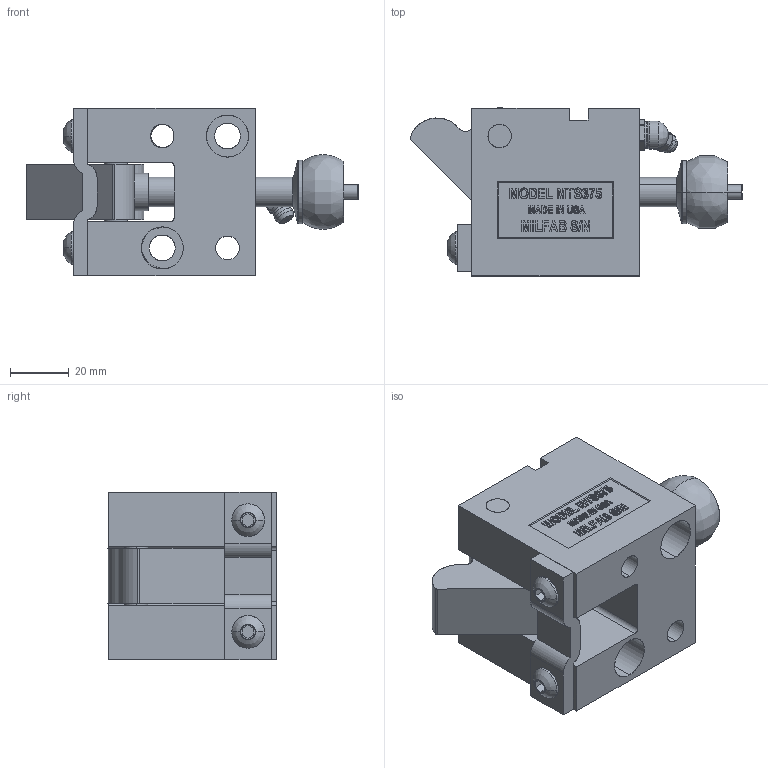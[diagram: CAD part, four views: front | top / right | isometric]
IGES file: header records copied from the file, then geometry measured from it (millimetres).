
Start section: SolidWorks IGES file using analytic representation for surfaces
Global section: file name: Y:\METRIC TOP MOUNT CAM UNITS\MTS375\CLOSED\MTS375-C.IGS; native system: SolidWorks 2006 by SolidWorks Corporation; preprocessor: SolidWorks 2006 by SolidWorks Corporation; author: Jim; date: 090116.141726; units: inch
Bounding box: 113.08 x 57.27 x 57.15 mm (x, y, z)
Surface area: 46956.4 mm2 (no closed solid volume)
Topology: 0 solids, 0 shells, 595 faces, 7047 edges, 7043 vertices
Faces by surface type: bspline 470, revolution 125
